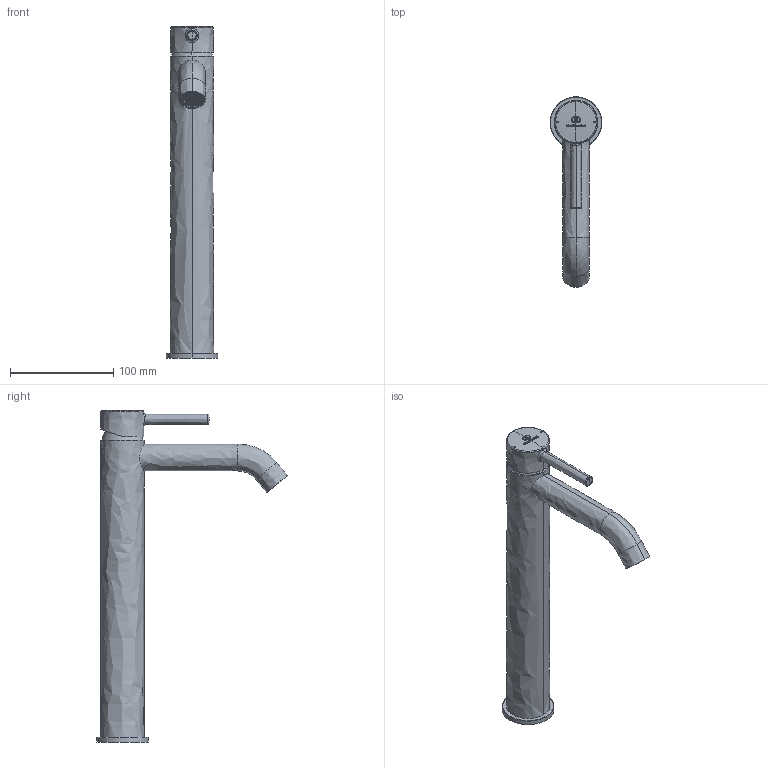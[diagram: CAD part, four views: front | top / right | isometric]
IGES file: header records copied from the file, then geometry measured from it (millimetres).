
Start section: JAMA-IS VERSION  1.0  PTC IGES file: bc269aa_3dpl_.igs
Global section: file name: bc269aa_3dpl_.igs; native system: Creo Parametric by PTC Inc.; preprocessor: 2016130; author: HristovG; organization: Unknown; date: 20200605.160346; units: millimetre
Bounding box: 50 x 184.96 x 321.56 mm (x, y, z)
Volume: 524158.6 mm3; surface area: 61370.3 mm2
Topology: 1 solids, 2 shells, 1086 faces, 2606 edges, 1546 vertices
Faces by surface type: bspline 1086
